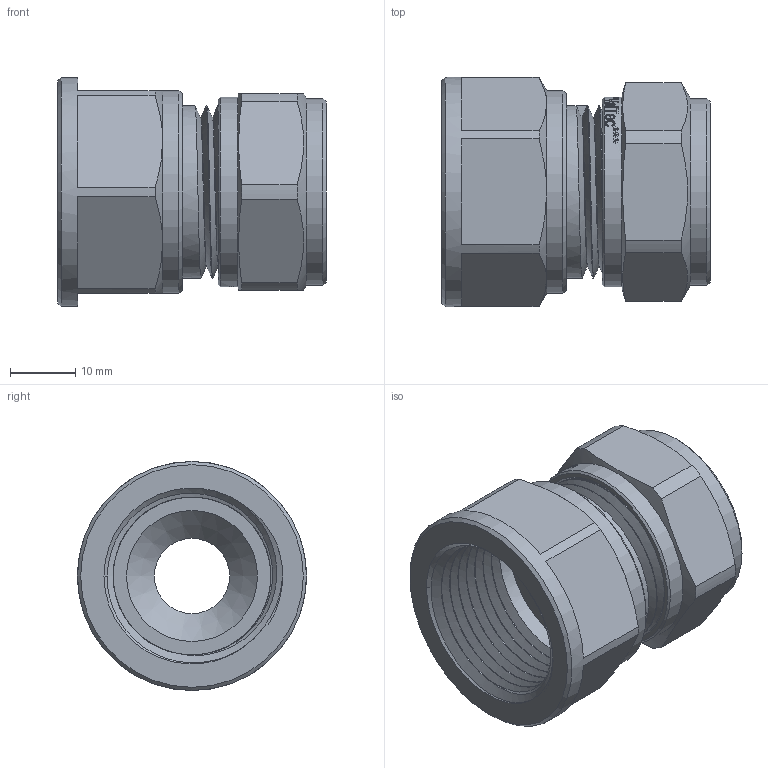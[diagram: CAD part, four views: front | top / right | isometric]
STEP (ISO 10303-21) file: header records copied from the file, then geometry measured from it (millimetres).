
FILE_DESCRIPTION(/* description */ (''),/* implementation_level */ '2;1');
FILE_NAME(/* name */ 'E:\Артём\00000\Работа удаленка\Обжимные фитинги\VTm.302.N.002005.stp',/* time_stamp */ '2020-06-09T12:05:55+03:00',/* author */ ('BeN_GaN'),/* organization */ (''),/* preprocessor_version */ 'ST-DEVELOPER v18',/* originating_system */ 'Autodesk Inventor 2020',/* authorisation */ '');
FILE_SCHEMA (('AUTOMOTIVE_DESIGN { 1 0 10303 214 3 1 1 }'));
Length unit declared in the file: millimetre
Products named in the file (1): VTm.302.N.002005
Bounding box: 40.98 x 35 x 35 mm (x, y, z)
Volume: 15971.1 mm3; surface area: 13670.8 mm2
Topology: 1 solids, 2 shells, 660 faces, 1845 edges, 1243 vertices
Faces by surface type: bspline 346, plane 176, cylinder 93, torus 23, cone 22
Full cylindrical faces by diameter (mm): 11.5 x1, 13.4 x2, 15.75 x4, 19.986 x4, 20.2 x1, 20.728 x5, 21 x1, 22.8 x2, 23.201 x1, 24.1 x7, 24.2 x1, 26.4 x3, 27.7 x7, 28.5 x1, 29 x1, 31 x1, 35 x1
Entity records: 29280 total; most frequent: CARTESIAN_POINT 14459, ORIENTED_EDGE 3690, DIRECTION 2028, EDGE_CURVE 1845, VERTEX_POINT 1243, LINE 754, VECTOR 754, B_SPLINE_CURVE_WITH_KNOTS 745
